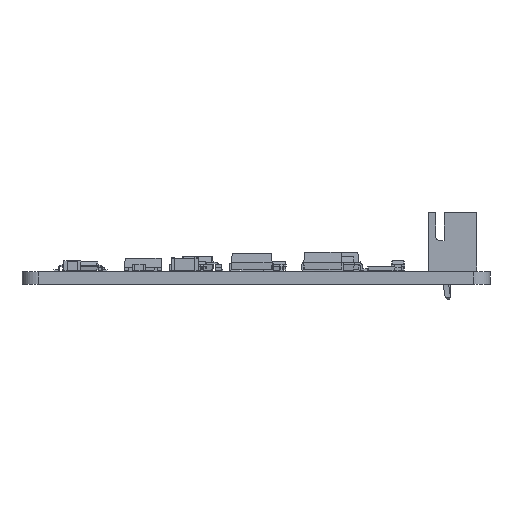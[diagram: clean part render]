
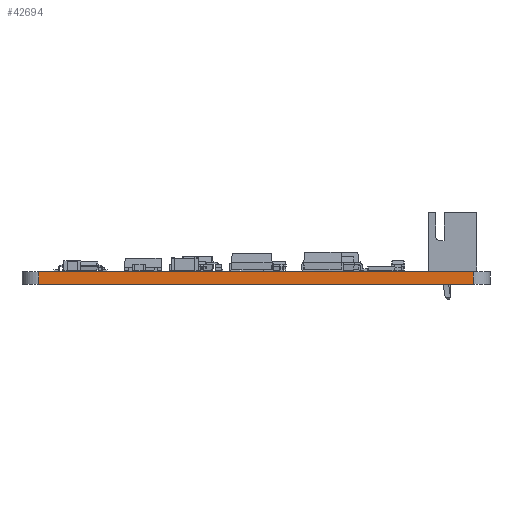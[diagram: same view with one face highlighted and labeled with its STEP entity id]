
A CAD part, left-side view. The second image highlights one B-rep face of the part: STEP entity #42694.
In plain terms, the highlighted planar face has unit normal (-1, 0, 0).
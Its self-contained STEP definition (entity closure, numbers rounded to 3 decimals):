
#42101 = VERTEX_POINT('',#42102);
#42102 = CARTESIAN_POINT('',(100.,-102.,0.));
#42109 = EDGE_CURVE('',#42110,#42101,#42112,.T.);
#42110 = VERTEX_POINT('',#42111);
#42111 = CARTESIAN_POINT('',(100.,-154.,0.));
#42112 = LINE('',#42113,#42114);
#42113 = CARTESIAN_POINT('',(100.,-154.,0.));
#42114 = VECTOR('',#42115,1.);
#42115 = DIRECTION('',(0.,1.,0.));
#42384 = VERTEX_POINT('',#42385);
#42385 = CARTESIAN_POINT('',(100.,-102.,1.51));
#42392 = EDGE_CURVE('',#42393,#42384,#42395,.T.);
#42393 = VERTEX_POINT('',#42394);
#42394 = CARTESIAN_POINT('',(100.,-154.,1.51));
#42395 = LINE('',#42396,#42397);
#42396 = CARTESIAN_POINT('',(100.,-154.,1.51));
#42397 = VECTOR('',#42398,1.);
#42398 = DIRECTION('',(0.,1.,0.));
#42664 = EDGE_CURVE('',#42101,#42384,#42665,.T.);
#42665 = LINE('',#42666,#42667);
#42666 = CARTESIAN_POINT('',(100.,-102.,0.));
#42667 = VECTOR('',#42668,1.);
#42668 = DIRECTION('',(0.,0.,1.));
#42694 = ADVANCED_FACE('',(#42695),#42706,.T.);
#42695 = FACE_BOUND('',#42696,.T.);
#42696 = EDGE_LOOP('',(#42697,#42703,#42704,#42705));
#42697 = ORIENTED_EDGE('',*,*,#42698,.T.);
#42698 = EDGE_CURVE('',#42110,#42393,#42699,.T.);
#42699 = LINE('',#42700,#42701);
#42700 = CARTESIAN_POINT('',(100.,-154.,0.));
#42701 = VECTOR('',#42702,1.);
#42702 = DIRECTION('',(0.,0.,1.));
#42703 = ORIENTED_EDGE('',*,*,#42392,.T.);
#42704 = ORIENTED_EDGE('',*,*,#42664,.F.);
#42705 = ORIENTED_EDGE('',*,*,#42109,.F.);
#42706 = PLANE('',#42707);
#42707 = AXIS2_PLACEMENT_3D('',#42708,#42709,#42710);
#42708 = CARTESIAN_POINT('',(100.,-154.,0.));
#42709 = DIRECTION('',(-1.,0.,0.));
#42710 = DIRECTION('',(0.,1.,0.));
